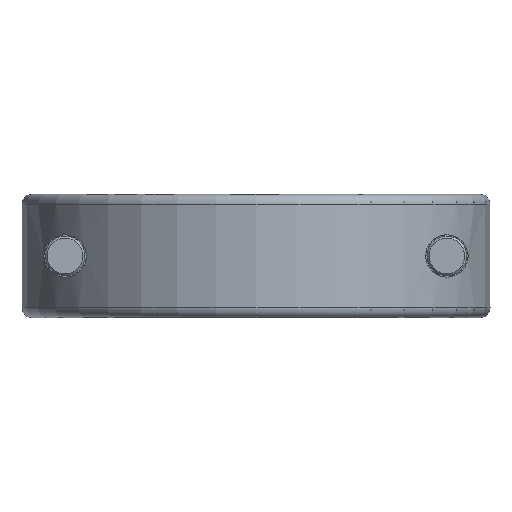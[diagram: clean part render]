
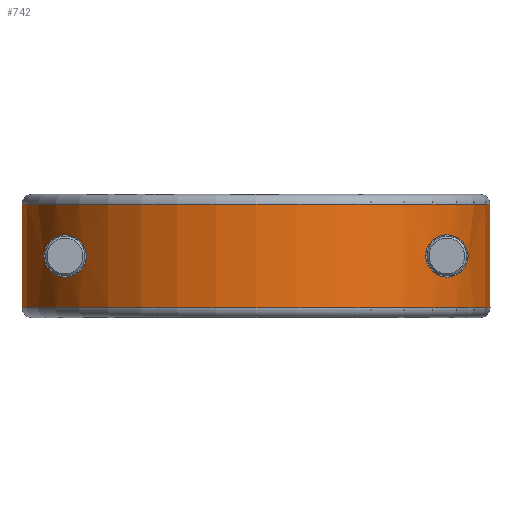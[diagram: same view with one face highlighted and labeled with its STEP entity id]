
A CAD part, front view. The second image highlights one B-rep face of the part: STEP entity #742.
In plain terms, the highlighted cylindrical face has radius 28.5 mm (diameter 57 mm), a partial arc.
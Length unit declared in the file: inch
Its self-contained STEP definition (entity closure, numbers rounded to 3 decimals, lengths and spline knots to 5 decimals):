
#92=CARTESIAN_POINT('',(1.12161,-0.0313,0.04724));
#244=CARTESIAN_POINT('',(0.,0.,0.54331));
#245=DIRECTION('',(0.,0.,1.));
#246=DIRECTION('',(-1.,-0.028,0.));
#247=AXIS2_PLACEMENT_3D('',#244,#245,#246);
#249=DIRECTION('',(0.,0.,-1.));
#250=VECTOR('',#249,0.49607);
#251=CARTESIAN_POINT('',(1.12161,-0.0313,
0.54331));
#252=LINE('',#251,#250);
#253=CARTESIAN_POINT('',(0.,0.,0.04724));
#254=DIRECTION('',(0.,0.,-1.));
#255=DIRECTION('',(1.,-0.028,0.));
#256=AXIS2_PLACEMENT_3D('',#253,#254,#255);
#258=DIRECTION('',(0.,0.,1.));
#259=VECTOR('',#258,0.49607);
#260=CARTESIAN_POINT('',(-1.12161,-0.0313,
0.04724));
#261=LINE('',#260,#259);
#262=CARTESIAN_POINT('',(-0.915,-0.64943,0.39684));
#263=CARTESIAN_POINT('',(-0.90742,-0.66011,0.39684));
#264=CARTESIAN_POINT('',(-0.89272,-0.68004,
0.39516));
#265=CARTESIAN_POINT('',(-0.87218,-0.70612,
0.38822));
#266=CARTESIAN_POINT('',(-0.85398,-0.72796,
0.37736));
#267=CARTESIAN_POINT('',(-0.83877,-0.74538,
0.36339));
#268=CARTESIAN_POINT('',(-0.827,-0.75837,
0.34726));
#269=CARTESIAN_POINT('',(-0.81889,-0.76709,
0.32979));
#270=CARTESIAN_POINT('',(-0.8142,-0.77206,
0.31157));
#271=CARTESIAN_POINT('',(-0.81289,-0.77343,
0.29277));
#272=CARTESIAN_POINT('',(-0.8151,-0.77111,
0.27421));
#273=CARTESIAN_POINT('',(-0.82057,-0.7653,
0.25646));
#274=CARTESIAN_POINT('',(-0.82924,-0.75593,
0.23973));
#275=CARTESIAN_POINT('',(-0.84119,-0.74265,
0.22462));
#276=CARTESIAN_POINT('',(-0.85609,-0.72547,
0.21174));
#277=CARTESIAN_POINT('',(-0.87367,-0.70426,
0.20174));
#278=CARTESIAN_POINT('',(-0.89342,-0.6791,
0.1953));
#279=CARTESIAN_POINT('',(-0.90766,-0.65978,
0.19371));
#280=CARTESIAN_POINT('',(-0.915,-0.64943,0.19371));
#282=CARTESIAN_POINT('',(0.915,-0.64943,0.19371));
#283=CARTESIAN_POINT('',(0.90736,-0.6602,
0.19371));
#284=CARTESIAN_POINT('',(0.89252,-0.6803,
0.19531));
#285=CARTESIAN_POINT('',(0.87179,-0.70661,
0.20237));
#286=CARTESIAN_POINT('',(0.85348,-0.72855,
0.21358));
#287=CARTESIAN_POINT('',(0.8382,-0.74602,
0.22777));
#288=CARTESIAN_POINT('',(0.82646,-0.75897,
0.24417));
#289=CARTESIAN_POINT('',(0.81852,-0.76749,
0.26196));
#290=CARTESIAN_POINT('',(0.81398,-0.77229,
0.28049));
#291=CARTESIAN_POINT('',(0.81292,-0.7734,
0.29957));
#292=CARTESIAN_POINT('',(0.81558,-0.77061,
0.31828));
#293=CARTESIAN_POINT('',(0.82139,-0.76442,
0.33597));
#294=CARTESIAN_POINT('',(0.83032,-0.75474,
0.35249));
#295=CARTESIAN_POINT('',(0.84235,-0.74133,
0.36707));
#296=CARTESIAN_POINT('',(0.85708,-0.7243,
0.37946));
#297=CARTESIAN_POINT('',(0.87432,-0.70345,
0.38922));
#298=CARTESIAN_POINT('',(0.89371,-0.67871,
0.39541));
#299=CARTESIAN_POINT('',(0.90775,-0.65965,0.39684));
#300=CARTESIAN_POINT('',(0.915,-0.64943,0.39684));
#302=CARTESIAN_POINT('',(0.915,-0.64943,0.39684));
#303=CARTESIAN_POINT('',(0.92227,-0.63919,0.39684));
#304=CARTESIAN_POINT('',(0.93577,-0.61944,
0.3953));
#305=CARTESIAN_POINT('',(0.95311,-0.59235,
0.38996));
#306=CARTESIAN_POINT('',(0.96786,-0.56787,
0.38249));
#307=CARTESIAN_POINT('',(0.98027,-0.54611,
0.37354));
#308=CARTESIAN_POINT('',(0.99068,-0.52695,
0.36355));
#309=CARTESIAN_POINT('',(0.99928,-0.51042,
0.35254));
#310=CARTESIAN_POINT('',(1.00621,-0.49658,
0.34066));
#311=CARTESIAN_POINT('',(1.01155,-0.48558,
0.32787));
#312=CARTESIAN_POINT('',(1.015,-0.4783,
0.31447));
#313=CARTESIAN_POINT('',(1.01666,-0.47475,
0.30126));
#314=CARTESIAN_POINT('',(1.01656,-0.47497,
0.28799));
#315=CARTESIAN_POINT('',(1.01474,-0.47886,
0.27471));
#316=CARTESIAN_POINT('',(1.01114,-0.48644,
0.26149));
#317=CARTESIAN_POINT('',(1.00575,-0.49752,
0.24901));
#318=CARTESIAN_POINT('',(0.9988,-0.51137,
0.23731));
#319=CARTESIAN_POINT('',(0.9902,-0.52785,
0.22648));
#320=CARTESIAN_POINT('',(0.97983,-0.54691,
0.21665));
#321=CARTESIAN_POINT('',(0.96747,-0.56853,
0.20783));
#322=CARTESIAN_POINT('',(0.95282,-0.59282,
0.20048));
#323=CARTESIAN_POINT('',(0.9356,-0.61969,
0.19522));
#324=CARTESIAN_POINT('',(0.92221,-0.63927,
0.19371));
#325=CARTESIAN_POINT('',(0.915,-0.64943,0.19371));
#361=CARTESIAN_POINT('',(-0.915,-0.64943,0.39684));
#362=CARTESIAN_POINT('',(-0.92227,-0.6392,0.39684));
#363=CARTESIAN_POINT('',(-0.93579,-0.61938,
0.39529));
#364=CARTESIAN_POINT('',(-0.95308,-0.59228,
0.38995));
#365=CARTESIAN_POINT('',(-0.96785,-0.56784,
0.38249));
#366=CARTESIAN_POINT('',(-0.98028,-0.54611,
0.37354));
#367=CARTESIAN_POINT('',(-0.99063,-0.52696,
0.36355));
#368=CARTESIAN_POINT('',(-0.99925,-0.51046,
0.35254));
#369=CARTESIAN_POINT('',(-1.00618,-0.49657,
0.34071));
#370=CARTESIAN_POINT('',(-1.01152,-0.48565,
0.32788));
#371=CARTESIAN_POINT('',(-1.01502,-0.47831,
0.31456));
#372=CARTESIAN_POINT('',(-1.01667,-0.47476,
0.30138));
#373=CARTESIAN_POINT('',(-1.0166,-0.47502,
0.28797));
#374=CARTESIAN_POINT('',(-1.01472,-0.4789,
0.27446));
#375=CARTESIAN_POINT('',(-1.01104,-0.4866,
0.26132));
#376=CARTESIAN_POINT('',(-1.00569,-0.49766,
0.2489));
#377=CARTESIAN_POINT('',(-0.99871,-0.5115,
0.23722));
#378=CARTESIAN_POINT('',(-0.9901,-0.52796,
0.22644));
#379=CARTESIAN_POINT('',(-0.97979,-0.547,
0.21661));
#380=CARTESIAN_POINT('',(-0.96742,-0.56856,
0.20781));
#381=CARTESIAN_POINT('',(-0.95276,-0.5928,
0.20048));
#382=CARTESIAN_POINT('',(-0.93561,-0.61966,
0.19523));
#383=CARTESIAN_POINT('',(-0.9222,-0.63929,
0.19371));
#384=CARTESIAN_POINT('',(-0.915,-0.64943,0.19371));
#425=CARTESIAN_POINT('',(-0.915,-0.64943,0.19371));
#427=VERTEX_POINT('',#425);
#429=VERTEX_POINT('',#361);
#432=VERTEX_POINT('',#282);
#433=VERTEX_POINT('',#300);
#434=CARTESIAN_POINT('',(-1.12161,-0.0313,
0.54331));
#435=CARTESIAN_POINT('',(1.12161,-0.0313,
0.54331));
#436=VERTEX_POINT('',#434);
#437=VERTEX_POINT('',#435);
#442=CARTESIAN_POINT('',(-1.12161,-0.0313,
0.04724));
#443=VERTEX_POINT('',#442);
#482=VERTEX_POINT('',#92);
#718=CARTESIAN_POINT('',(0.,0.,0.04724));
#719=DIRECTION('',(0.,0.,-1.));
#720=DIRECTION('',(-1.,0.,0.));
#721=AXIS2_PLACEMENT_3D('',#718,#719,#720);
#722=CYLINDRICAL_SURFACE('',#721,1.12205);
#723=ORIENTED_EDGE('',*,*,#703,.T.);
#724=ORIENTED_EDGE('',*,*,#562,.T.);
#726=ORIENTED_EDGE('',*,*,#725,.T.);
#727=ORIENTED_EDGE('',*,*,#659,.T.);
#728=EDGE_LOOP('',(#723,#724,#726,#727));
#729=FACE_OUTER_BOUND('',#728,.F.);
#731=ORIENTED_EDGE('',*,*,#730,.T.);
#733=ORIENTED_EDGE('',*,*,#732,.F.);
#734=EDGE_LOOP('',(#731,#733));
#735=FACE_BOUND('',#734,.F.);
#737=ORIENTED_EDGE('',*,*,#736,.F.);
#739=ORIENTED_EDGE('',*,*,#738,.F.);
#740=EDGE_LOOP('',(#737,#739));
#741=FACE_BOUND('',#740,.F.);
#248=CIRCLE('',#247,1.12205);
#257=CIRCLE('',#256,1.12205);
#281=B_SPLINE_CURVE_WITH_KNOTS('',3,(#262,#263,#264,#265,#266,#267,#268,#269,
#270,#271,#272,#273,#274,#275,#276,#277,#278,#279,#280),.UNSPECIFIED.,.F.,.F.,
(4,1,1,1,1,1,1,1,1,1,1,1,1,1,1,1,4),(0.,0.0625,0.125,0.1875,0.25,
0.3125,0.375,0.4375,0.5,0.5625,0.625,0.6875,0.75,0.8125,
0.875,0.9375,1.),.UNSPECIFIED.);
#301=B_SPLINE_CURVE_WITH_KNOTS('',3,(#282,#283,#284,#285,#286,#287,#288,#289,
#290,#291,#292,#293,#294,#295,#296,#297,#298,#299,#300),.UNSPECIFIED.,.F.,.F.,
(4,1,1,1,1,1,1,1,1,1,1,1,1,1,1,1,4),(0.,0.0625,0.125,0.1875,0.25,
0.3125,0.375,0.4375,0.5,0.5625,0.625,0.6875,0.75,0.8125,
0.875,0.9375,1.),.UNSPECIFIED.);
#326=B_SPLINE_CURVE_WITH_KNOTS('',3,(#302,#303,#304,#305,#306,#307,#308,#309,
#310,#311,#312,#313,#314,#315,#316,#317,#318,#319,#320,#321,#322,#323,#324,
#325),.UNSPECIFIED.,.F.,.F.,(4,1,1,1,1,1,1,1,1,1,1,1,1,1,1,1,1,1,1,1,1,4),(0.,
0.04762,0.09524,0.14286,0.19048,
0.2381,0.28571,0.33333,0.38095,
0.42857,0.47619,0.52381,0.57143,
0.61905,0.66667,0.71429,0.7619,
0.80952,0.85714,0.90476,0.95238,1.),
.UNSPECIFIED.);
#385=B_SPLINE_CURVE_WITH_KNOTS('',3,(#361,#362,#363,#364,#365,#366,#367,#368,
#369,#370,#371,#372,#373,#374,#375,#376,#377,#378,#379,#380,#381,#382,#383,
#384),.UNSPECIFIED.,.F.,.F.,(4,1,1,1,1,1,1,1,1,1,1,1,1,1,1,1,1,1,1,1,1,4),(0.,
0.04762,0.09524,0.14286,0.19048,
0.2381,0.28571,0.33333,0.38095,
0.42857,0.47619,0.52381,0.57143,
0.61905,0.66667,0.71429,0.7619,
0.80952,0.85714,0.90476,0.95238,1.),
.UNSPECIFIED.);
#562=EDGE_CURVE('',#437,#482,#252,.T.);
#659=EDGE_CURVE('',#443,#436,#261,.T.);
#703=EDGE_CURVE('',#436,#437,#248,.T.);
#725=EDGE_CURVE('',#482,#443,#257,.T.);
#730=EDGE_CURVE('',#429,#427,#385,.T.);
#732=EDGE_CURVE('',#429,#427,#281,.T.);
#736=EDGE_CURVE('',#432,#433,#301,.T.);
#738=EDGE_CURVE('',#433,#432,#326,.T.);
#742=ADVANCED_FACE('',(#729,#735,#741),#722,.T.);
